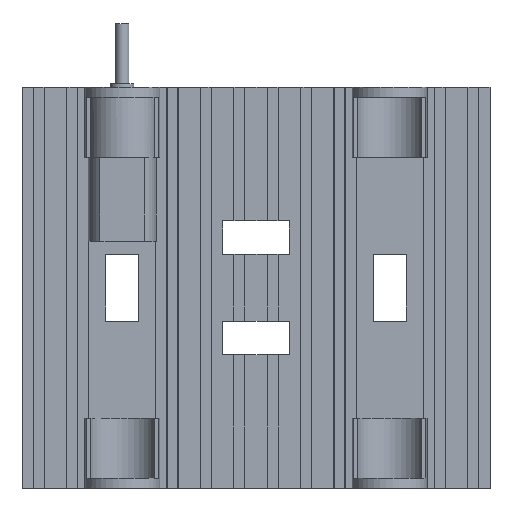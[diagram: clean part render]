
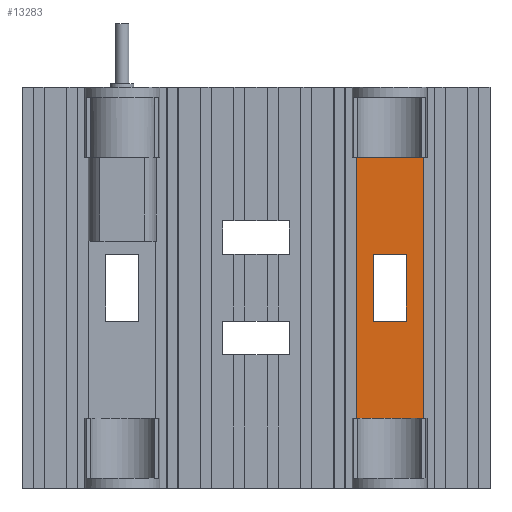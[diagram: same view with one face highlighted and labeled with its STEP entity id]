
A CAD part, front view. The second image highlights one B-rep face of the part: STEP entity #13283.
In plain terms, the highlighted planar face has unit normal (0, -1, 0).
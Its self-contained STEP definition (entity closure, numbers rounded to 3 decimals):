
#39=FACE_BOUND('',#1655,.T.);
#481=PLANE('',#13953);
#1030=FACE_OUTER_BOUND('',#1654,.T.);
#1654=EDGE_LOOP('',(#11306,#11307,#11308,#11309,#11310,#11311,#11312,#11313,
#11314,#11315,#11316,#11317));
#1655=EDGE_LOOP('',(#11318,#11319,#11320,#11321));
#3065=LINE('',#19793,#4830);
#3110=LINE('',#19885,#4875);
#3113=LINE('',#19897,#4878);
#3114=LINE('',#19900,#4879);
#3136=LINE('',#19977,#4901);
#3150=LINE('',#20005,#4915);
#3154=LINE('',#20010,#4919);
#3209=LINE('',#20123,#4974);
#3233=LINE('',#20169,#4998);
#3234=LINE('',#20171,#4999);
#3235=LINE('',#20173,#5000);
#3236=LINE('',#20175,#5001);
#3237=LINE('',#20177,#5002);
#3238=LINE('',#20179,#5003);
#3239=LINE('',#20181,#5004);
#3240=LINE('',#20182,#5005);
#4830=VECTOR('',#16018,10.);
#4875=VECTOR('',#16097,10.);
#4878=VECTOR('',#16108,10.);
#4879=VECTOR('',#16111,10.);
#4901=VECTOR('',#16189,10.);
#4915=VECTOR('',#16205,10.);
#4919=VECTOR('',#16211,10.);
#4974=VECTOR('',#16310,10.);
#4998=VECTOR('',#16350,10.);
#4999=VECTOR('',#16351,10.);
#5000=VECTOR('',#16352,10.);
#5001=VECTOR('',#16353,10.);
#5002=VECTOR('',#16354,10.);
#5003=VECTOR('',#16355,10.);
#5004=VECTOR('',#16356,10.);
#5005=VECTOR('',#16357,10.);
#6462=VERTEX_POINT('',#19790);
#6463=VERTEX_POINT('',#19792);
#6492=VERTEX_POINT('',#19883);
#6493=VERTEX_POINT('',#19884);
#6498=VERTEX_POINT('',#19896);
#6499=VERTEX_POINT('',#19898);
#6526=VERTEX_POINT('',#19976);
#6539=VERTEX_POINT('',#20003);
#6574=VERTEX_POINT('',#20121);
#6575=VERTEX_POINT('',#20122);
#6590=VERTEX_POINT('',#20170);
#6591=VERTEX_POINT('',#20172);
#6592=VERTEX_POINT('',#20174);
#6593=VERTEX_POINT('',#20176);
#6594=VERTEX_POINT('',#20178);
#6595=VERTEX_POINT('',#20180);
#8085=EDGE_CURVE('',#6462,#6463,#3065,.T.);
#8130=EDGE_CURVE('',#6492,#6493,#3110,.T.);
#8136=EDGE_CURVE('',#6498,#6492,#3113,.T.);
#8138=EDGE_CURVE('',#6493,#6499,#3114,.T.);
#8176=EDGE_CURVE('',#6526,#6463,#3136,.T.);
#8190=EDGE_CURVE('',#6462,#6539,#3150,.T.);
#8194=EDGE_CURVE('',#6539,#6526,#3154,.T.);
#8249=EDGE_CURVE('',#6574,#6575,#3209,.T.);
#8273=EDGE_CURVE('',#6498,#6574,#3233,.T.);
#8274=EDGE_CURVE('',#6590,#6499,#3234,.T.);
#8275=EDGE_CURVE('',#6590,#6591,#3235,.T.);
#8276=EDGE_CURVE('',#6591,#6592,#3236,.T.);
#8277=EDGE_CURVE('',#6593,#6592,#3237,.T.);
#8278=EDGE_CURVE('',#6594,#6593,#3238,.T.);
#8279=EDGE_CURVE('',#6595,#6594,#3239,.T.);
#8280=EDGE_CURVE('',#6595,#6575,#3240,.T.);
#11306=ORIENTED_EDGE('',*,*,#8249,.F.);
#11307=ORIENTED_EDGE('',*,*,#8273,.F.);
#11308=ORIENTED_EDGE('',*,*,#8136,.T.);
#11309=ORIENTED_EDGE('',*,*,#8130,.T.);
#11310=ORIENTED_EDGE('',*,*,#8138,.T.);
#11311=ORIENTED_EDGE('',*,*,#8274,.F.);
#11312=ORIENTED_EDGE('',*,*,#8275,.T.);
#11313=ORIENTED_EDGE('',*,*,#8276,.T.);
#11314=ORIENTED_EDGE('',*,*,#8277,.F.);
#11315=ORIENTED_EDGE('',*,*,#8278,.F.);
#11316=ORIENTED_EDGE('',*,*,#8279,.F.);
#11317=ORIENTED_EDGE('',*,*,#8280,.T.);
#11318=ORIENTED_EDGE('',*,*,#8190,.T.);
#11319=ORIENTED_EDGE('',*,*,#8194,.T.);
#11320=ORIENTED_EDGE('',*,*,#8176,.T.);
#11321=ORIENTED_EDGE('',*,*,#8085,.F.);
#13283=ADVANCED_FACE('',(#1030,#39),#481,.F.);
#13953=AXIS2_PLACEMENT_3D('',#20168,#16348,#16349);
#16018=DIRECTION('',(-1.,0.,0.));
#16097=DIRECTION('',(-1.,0.,0.));
#16108=DIRECTION('',(0.,0.,-1.));
#16111=DIRECTION('',(0.,0.,1.));
#16189=DIRECTION('',(0.,0.,1.));
#16205=DIRECTION('',(0.,0.,-1.));
#16211=DIRECTION('',(-1.,0.,0.));
#16310=DIRECTION('',(0.,0.,-1.));
#16348=DIRECTION('center_axis',(0.,1.,0.));
#16349=DIRECTION('ref_axis',(0.,0.,1.));
#16350=DIRECTION('',(1.,0.,0.));
#16351=DIRECTION('',(1.,0.,0.));
#16352=DIRECTION('',(0.,0.,-1.));
#16353=DIRECTION('',(1.,0.,0.));
#16354=DIRECTION('',(0.,0.,-1.));
#16355=DIRECTION('',(-1.,0.,0.));
#16356=DIRECTION('',(0.,0.,1.));
#16357=DIRECTION('',(1.,0.,0.));
#19790=CARTESIAN_POINT('',(85.,10.2,-34.));
#19792=CARTESIAN_POINT('',(75.,10.2,-34.));
#19793=CARTESIAN_POINT('',(77.5,10.2,-34.));
#19883=CARTESIAN_POINT('',(84.749,10.2,-5.));
#19884=CARTESIAN_POINT('',(75.251,10.2,-5.));
#19885=CARTESIAN_POINT('',(77.5,10.2,-5.));
#19896=CARTESIAN_POINT('',(84.749,10.2,16.));
#19897=CARTESIAN_POINT('',(84.749,10.2,14.));
#19898=CARTESIAN_POINT('',(75.251,10.2,16.));
#19900=CARTESIAN_POINT('',(75.251,10.2,14.));
#19976=CARTESIAN_POINT('',(75.,10.2,-54.));
#19977=CARTESIAN_POINT('',(75.,10.2,-59.));
#20003=CARTESIAN_POINT('',(85.,10.2,-54.));
#20005=CARTESIAN_POINT('',(85.,10.2,-59.));
#20010=CARTESIAN_POINT('',(77.5,10.2,-54.));
#20121=CARTESIAN_POINT('',(90.,10.2,16.));
#20122=CARTESIAN_POINT('',(90.,10.2,-104.));
#20123=CARTESIAN_POINT('',(90.,10.2,-14.));
#20168=CARTESIAN_POINT('Origin',(75.,10.2,-74.));
#20169=CARTESIAN_POINT('',(75.,10.2,16.));
#20170=CARTESIAN_POINT('',(70.,10.2,16.));
#20171=CARTESIAN_POINT('',(75.,10.2,16.));
#20172=CARTESIAN_POINT('',(70.,10.2,-104.));
#20173=CARTESIAN_POINT('',(70.,10.2,-74.));
#20174=CARTESIAN_POINT('',(75.251,10.2,-104.));
#20175=CARTESIAN_POINT('',(75.,10.2,-104.));
#20176=CARTESIAN_POINT('',(75.251,10.2,-83.));
#20177=CARTESIAN_POINT('',(75.251,10.2,-102.));
#20178=CARTESIAN_POINT('',(84.749,10.2,-83.));
#20179=CARTESIAN_POINT('',(77.5,10.2,-83.));
#20180=CARTESIAN_POINT('',(84.749,10.2,-104.));
#20181=CARTESIAN_POINT('',(84.749,10.2,-102.));
#20182=CARTESIAN_POINT('',(75.,10.2,-104.));
